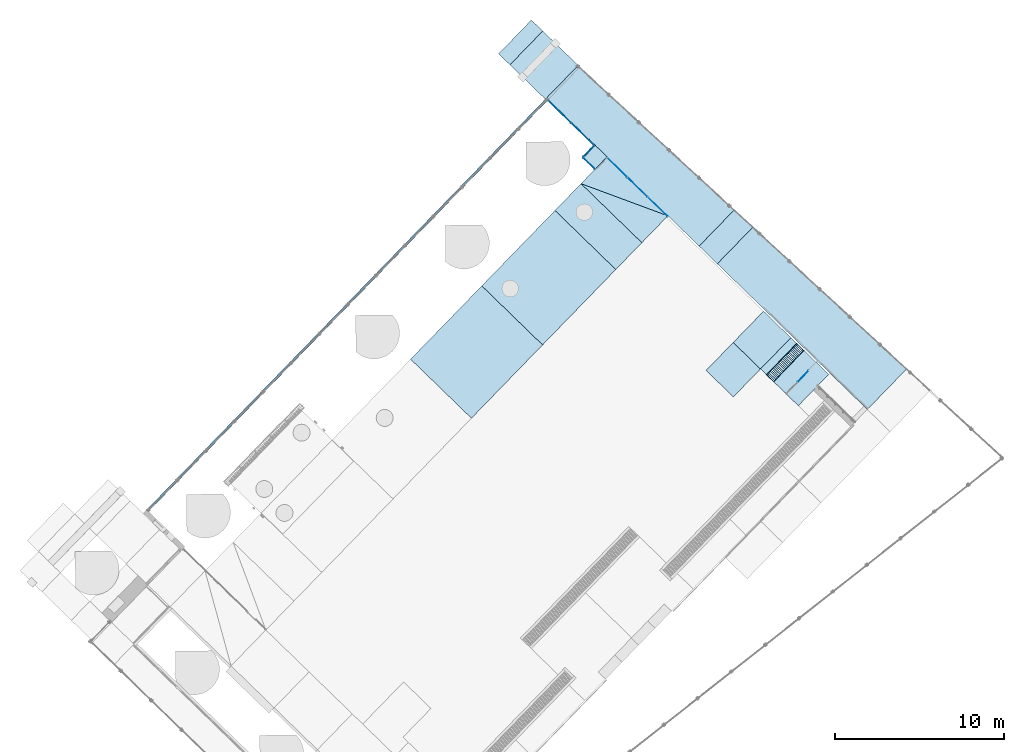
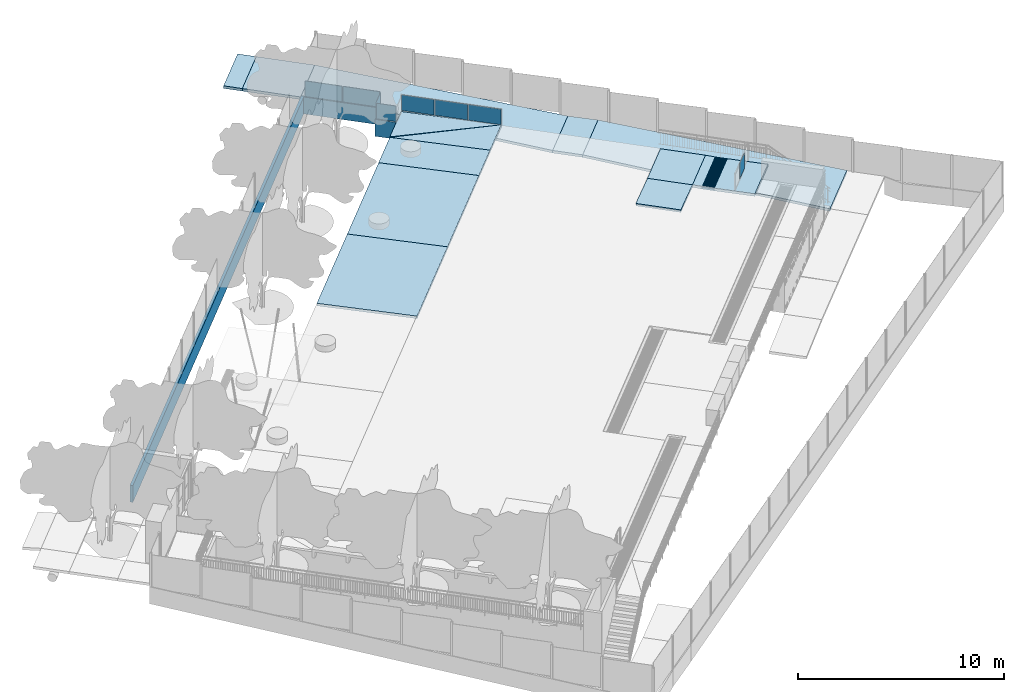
# One storey, part 18 of 37: 19 slabs, 8 plates, 5 elements without a shape of their own.
"""IFC2X3 building model written with IfcOpenShell, lengths in centimetres."""

from ifc_helpers import new_model, entity, si_unit, converted_unit, derived_unit, direction, frame, frame_2d, origin, origin_2d_with_axis, place, context, subcontext, project, spatial, polyline, rectangle, outline, extrude, source, transform, mapped, material, layer, layer_set, layer_usage, type_object, type_shapes, element, aggregate, save


model = new_model("IFC2X3")

# Units and contexts
model_context = context("Model", 3, precision=0.001, world=origin(), true_north=direction((0.717475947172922, 0.696583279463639)))
body_context = subcontext(model_context, "Body", "Model", "MODEL_VIEW")
ifc_project = project(units=[si_unit("LENGTHUNIT", "METRE", prefix="CENTI"), si_unit("AREAUNIT", "SQUARE_METRE"), si_unit("VOLUMEUNIT", "CUBIC_METRE"), converted_unit("PLANEANGLEUNIT", "DEGREE", entity("IfcRatioMeasure", 0.0174532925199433), si_unit("PLANEANGLEUNIT", "RADIAN"), dimensions=[0, 0, 0, 0, 0, 0, 0]), si_unit("MASSUNIT", "GRAM", prefix="KILO"), derived_unit("MASSDENSITYUNIT", [(si_unit("MASSUNIT", "GRAM", prefix="KILO"), 1), (si_unit("LENGTHUNIT", "METRE"), -3)]), si_unit("TIMEUNIT", "SECOND"), si_unit("FREQUENCYUNIT", "HERTZ"), si_unit("THERMODYNAMICTEMPERATUREUNIT", "DEGREE_CELSIUS"), derived_unit("THERMALTRANSMITTANCEUNIT", [(si_unit("MASSUNIT", "GRAM", prefix="KILO"), 1), (si_unit("THERMODYNAMICTEMPERATUREUNIT", "KELVIN"), -1), (si_unit("TIMEUNIT", "SECOND"), -3)]), derived_unit("VOLUMETRICFLOWRATEUNIT", [(si_unit("LENGTHUNIT", "METRE"), 3), (si_unit("TIMEUNIT", "SECOND"), -1)]), si_unit("ELECTRICCURRENTUNIT", "AMPERE"), si_unit("ELECTRICVOLTAGEUNIT", "VOLT"), si_unit("POWERUNIT", "WATT"), si_unit("FORCEUNIT", "NEWTON", prefix="KILO"), si_unit("ILLUMINANCEUNIT", "LUX"), si_unit("LUMINOUSFLUXUNIT", "LUMEN"), si_unit("LUMINOUSINTENSITYUNIT", "CANDELA"), derived_unit("USERDEFINED", [(si_unit("MASSUNIT", "GRAM", prefix="KILO"), -1), (si_unit("LENGTHUNIT", "METRE"), -2), (si_unit("TIMEUNIT", "SECOND"), 3), (si_unit("LUMINOUSFLUXUNIT", "LUMEN"), 1)]), derived_unit("LINEARVELOCITYUNIT", [(si_unit("LENGTHUNIT", "METRE"), 1), (si_unit("TIMEUNIT", "SECOND"), -1)]), si_unit("PRESSUREUNIT", "PASCAL"), derived_unit("USERDEFINED", [(si_unit("LENGTHUNIT", "METRE"), -2), (si_unit("MASSUNIT", "GRAM", prefix="KILO"), 1), (si_unit("TIMEUNIT", "SECOND"), -2)])], contexts=[model_context])

# Site, building, storey
site_placement = place(None, frame((0.0, 0.0, 0.0), z_axis=(0.0, 0.0, 1.0), x_axis=(0.696583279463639, 0.717475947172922, 0.0)))
site = spatial("IfcSite", under=ifc_project, at=site_placement, Name="Surface", CompositionType="ELEMENT")
building_placement = place(site_placement, origin())
building = spatial("IfcBuilding", under=site, at=building_placement, CompositionType="ELEMENT")
storey_placement = place(building_placement, origin())
storey = spatial("IfcBuildingStorey", under=building, at=storey_placement, Name="Nivel 0.00", CompositionType="ELEMENT", Elevation=0.0)

# Curtain wall, plate
curtain_wall_type_1 = type_object("IfcCurtainWallType", Name="Curtain Wall:REJA_BAJA_100mm", PredefinedType="NOTDEFINED")
curtain_wall_1_placement = place(storey_placement, origin())
curtain_wall_1 = element("IfcCurtainWall", 1, at=curtain_wall_1_placement, inside=storey, type_object=curtain_wall_type_1, Name="Curtain Wall:REJA_BAJA_100mm", ObjectType="Curtain Wall:REJA_BAJA_100mm")
ifc_material_1 = material(Name="REJA_MALLA_ACMA")
plate_type_1 = type_object("IfcPlateType", Name="MALLA ACMA", PredefinedType="CURTAIN_PANEL", material=ifc_material_1)
shared_shape_1 = source(origin(), body_context, "Body", "SweptSolid", [
    extrude(rectangle(XDim=1.0, YDim=90.4174702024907, at=origin_2d_with_axis()), frame((0.0, 0.0, 0.0), z_axis=(0.0, 0.0, 1.0), x_axis=(0.0, 1.0, 0.0)), (0.0, 0.0, 1.0), 94.0),
])
type_shapes(plate_type_1, [shared_shape_1])
plate_1_placement = place(curtain_wall_1_placement, frame((1675.42636923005, -1156.74407068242, 155.0), z_axis=(0.0, 0.0, 1.0), x_axis=(-1.0, 0.0, 0.0)))
plate_1 = element("IfcPlate", 2, at=plate_1_placement, type_object=plate_type_1, material=ifc_material_1, Name="System Panel:MALLA ACMA", ObjectType="MALLA ACMA", context=body_context, shape_type="MappedRepresentation", body=[
    mapped(shared_shape_1, transform((0.0, 0.0, 0.0), scale=1.0)),
])
aggregate(curtain_wall_1, [plate_1])

# Curtain wall, plates
curtain_wall_2_placement = place(storey_placement, origin())
curtain_wall_2 = element("IfcCurtainWall", 3, at=curtain_wall_2_placement, inside=storey, type_object=curtain_wall_type_1, Name="Curtain Wall:REJA_BAJA_100mm", ObjectType="Curtain Wall:REJA_BAJA_100mm")
plate_type_2 = type_object("IfcPlateType", Name="MALLA ACMA", PredefinedType="CURTAIN_PANEL", material=ifc_material_1)
shared_shape_2 = source(origin(), body_context, "Body", "SweptSolid", [
    extrude(rectangle(XDim=1.0, YDim=184.0, at=origin_2d_with_axis()), frame((0.0, 0.0, 0.0), z_axis=(0.0, 0.0, 1.0), x_axis=(0.0, 1.0, 0.0)), (0.0, 0.0, 1.0), 92.0),
])
type_shapes(plate_type_2, [shared_shape_2])
plate_2_placement = place(curtain_wall_2_placement, frame((1796.6277064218, 964.72563048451, 153.0), z_axis=(0.0, 0.0, 1.0), x_axis=(0.0, -1.0, 0.0)))
plate_2 = element("IfcPlate", 4, at=plate_2_placement, type_object=plate_type_2, material=ifc_material_1, Name="System Panel:MALLA ACMA", ObjectType="MALLA ACMA", context=body_context, shape_type="MappedRepresentation", body=[
    mapped(shared_shape_2, transform((0.0, 0.0, 0.0), scale=1.0)),
])
plate_3_placement = place(curtain_wall_2_placement, frame((1796.6277064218, 775.72563048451, 153.0), z_axis=(0.0, 0.0, 1.0), x_axis=(0.0, -1.0, 0.0)))
plate_3 = element("IfcPlate", 5, at=plate_3_placement, type_object=plate_type_2, material=ifc_material_1, Name="System Panel:MALLA ACMA", ObjectType="MALLA ACMA", context=body_context, shape_type="MappedRepresentation", body=[
    mapped(shared_shape_2, transform((0.0, 0.0, 0.0), scale=1.0)),
])
aggregate(curtain_wall_2, [plate_2, plate_3])

# Curtain wall, plate
curtain_wall_type_2 = type_object("IfcCurtainWallType", Name="Curtain Wall:REJA_BAJA_SIMPLE_100mm", PredefinedType="NOTDEFINED")
curtain_wall_3_placement = place(storey_placement, origin())
curtain_wall_3 = element("IfcCurtainWall", 6, at=curtain_wall_3_placement, inside=storey, type_object=curtain_wall_type_2, Name="Curtain Wall:REJA_BAJA_SIMPLE_100mm", ObjectType="Curtain Wall:REJA_BAJA_SIMPLE_100mm")
plate_type_3 = type_object("IfcPlateType", Name="MALLA ACMA", PredefinedType="CURTAIN_PANEL", material=ifc_material_1)
shared_shape_3 = source(origin(), body_context, "Body", "SweptSolid", [
    extrude(rectangle(XDim=1.0, YDim=88.5751315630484, at=origin_2d_with_axis()), frame((0.0, 0.0, 0.0), z_axis=(0.0, 0.0, 1.0), x_axis=(0.0, 1.0, 0.0)), (0.0, 0.0, 1.0), 92.0),
])
type_shapes(plate_type_3, [shared_shape_3])
plate_4_placement = place(curtain_wall_3_placement, frame((1747.34014064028, 678.72563048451, 153.0), z_axis=(0.0, 0.0, 1.0), x_axis=(-1.0, 0.0, 0.0)))
plate_4 = element("IfcPlate", 7, at=plate_4_placement, type_object=plate_type_3, material=ifc_material_1, Name="System Panel:MALLA ACMA", ObjectType="MALLA ACMA", context=body_context, shape_type="MappedRepresentation", body=[
    mapped(shared_shape_3, transform((0.0, 0.0, 0.0), scale=1.0)),
])
aggregate(curtain_wall_3, [plate_4])

curtain_wall_4_placement = place(storey_placement, origin())
curtain_wall_4 = element("IfcCurtainWall", 8, at=curtain_wall_4_placement, inside=storey, type_object=curtain_wall_type_2, Name="Curtain Wall:REJA_BAJA_SIMPLE_100mm", ObjectType="Curtain Wall:REJA_BAJA_SIMPLE_100mm")
plate_type_4 = type_object("IfcPlateType", Name="MALLA ACMA", PredefinedType="CURTAIN_PANEL", material=ifc_material_1)
shared_shape_4 = source(origin(), body_context, "Body", "SweptSolid", [
    extrude(rectangle(XDim=1.0, YDim=95.0763976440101, at=origin_2d_with_axis()), frame((0.0, 0.0, 0.0), z_axis=(0.0, 0.0, 1.0), x_axis=(0.0, 1.0, 0.0)), (0.0, 0.0, 1.0), 92.0),
])
type_shapes(plate_type_4, [shared_shape_4])
plate_5_placement = place(curtain_wall_4_placement, frame((1698.05257485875, 626.187431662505, 153.0), z_axis=(0.0, 0.0, 1.0), x_axis=(0.0, -1.0, 0.0)))
plate_5 = element("IfcPlate", 9, at=plate_5_placement, type_object=plate_type_4, material=ifc_material_1, Name="System Panel:MALLA ACMA", ObjectType="MALLA ACMA", context=body_context, shape_type="MappedRepresentation", body=[
    mapped(shared_shape_4, transform((0.0, 0.0, 0.0), scale=1.0)),
])
aggregate(curtain_wall_4, [plate_5])

# Curtain wall, plates
curtain_wall_5_placement = place(storey_placement, origin())
curtain_wall_5 = element("IfcCurtainWall", 10, at=curtain_wall_5_placement, inside=storey, type_object=curtain_wall_type_1, Name="Curtain Wall:REJA_BAJA_100mm", ObjectType="Curtain Wall:REJA_BAJA_100mm")
plate_type_5 = type_object("IfcPlateType", Name="MALLA ACMA", PredefinedType="CURTAIN_PANEL", material=ifc_material_1)
shared_shape_5 = source(origin(), body_context, "Body", "SweptSolid", [
    extrude(rectangle(XDim=1.0, YDim=162.33333335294, at=origin_2d_with_axis()), frame((0.0, 0.0, 0.0), z_axis=(0.0, 0.0, 1.0), x_axis=(0.0, 1.0, 0.0)), (0.0, 0.0, 1.0), 92.0),
])
type_shapes(plate_type_5, [shared_shape_5])
plate_6_placement = place(curtain_wall_5_placement, frame((1796.6277064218, 492.48256619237, 153.0), z_axis=(0.0, 0.0, 1.0), x_axis=(0.0, -1.0, 0.0)))
plate_6 = element("IfcPlate", 11, at=plate_6_placement, type_object=plate_type_5, material=ifc_material_1, Name="System Panel:MALLA ACMA", ObjectType="MALLA ACMA", context=body_context, shape_type="MappedRepresentation", body=[
    mapped(shared_shape_5, transform((0.0, 0.0, 0.0), scale=1.0)),
])
plate_7_placement = place(curtain_wall_5_placement, frame((1796.6277064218, 325.14923285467, 153.0), z_axis=(0.0, 0.0, 1.0), x_axis=(0.0, -1.0, 0.0)))
plate_7 = element("IfcPlate", 12, at=plate_7_placement, type_object=plate_type_5, material=ifc_material_1, Name="System Panel:MALLA ACMA", ObjectType="MALLA ACMA", context=body_context, shape_type="MappedRepresentation", body=[
    mapped(shared_shape_5, transform((0.0, 0.0, 0.0), scale=1.0)),
])
plate_8_placement = place(curtain_wall_5_placement, frame((1796.6277064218, 157.81589951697, 153.0), z_axis=(0.0, 0.0, 1.0), x_axis=(0.0, -1.0, 0.0)))
plate_8 = element("IfcPlate", 13, at=plate_8_placement, type_object=plate_type_5, material=ifc_material_1, Name="System Panel:MALLA ACMA", ObjectType="MALLA ACMA", context=body_context, shape_type="MappedRepresentation", body=[
    mapped(shared_shape_5, transform((0.0, 0.0, 0.0), scale=1.0)),
])
aggregate(curtain_wall_5, [plate_6, plate_7, plate_8])

# Slabs
ifc_material_2 = material(Name="<Unnamed>")
ifc_layer_1 = layer(ifc_material_2, 15.0)
ifc_layer_set_1 = layer_set([ifc_layer_1], Name="Pad:HORMIGON_EXTERIOR_150mm")
ifc_layer_usage_1 = layer_usage(ifc_layer_set_1, "AXIS3", "POSITIVE", 0.0)
slab_1_placement = place(storey_placement, frame((1800.55257456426, -1565.30786725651, -81.0571643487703)))
element("IfcSlab", 14, at=slab_1_placement, inside=storey, material=ifc_layer_usage_1, Name="Pad:HORMIGON_EXTERIOR_150mm", ObjectType="Pad:HORMIGON_EXTERIOR_150mm", PredefinedType="FLOOR", context=body_context, shape_type="SweptSolid", body=[
    extrude(outline(polyline([(-160.83910368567, 0.0), (-160.839103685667, -1240.70947623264), (143.969226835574, -1240.70947623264), (175.844090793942, 0.0), (-160.83910368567, 0.0)])), frame((160.83910368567, 0.0, 15.0571538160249), z_axis=(0.0, 0.0870469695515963, -0.996204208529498), x_axis=(1.0, 0.0, 0.0)), (0.0, 0.0870469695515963, 0.996204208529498), 15.0571538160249),
])
ifc_layer_usage_2 = layer_usage(ifc_layer_set_1, "AXIS3", "POSITIVE", 0.0)
slab_2_placement = place(storey_placement, origin())
element("IfcSlab", 15, at=slab_2_placement, inside=storey, material=ifc_layer_usage_2, Name="Pad:HORMIGON_EXTERIOR_150mm", ObjectType="Pad:HORMIGON_EXTERIOR_150mm", PredefinedType="FLOOR", context=body_context, shape_type="SweptSolid", body=[
    extrude(outline(polyline([(-149.502933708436, -75.0), (151.437088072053, -75.0), (151.437088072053, 75.0), (-153.37124243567, 75.0), (-149.502933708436, -75.0)])), frame((1951.98966264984, -254.307865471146, 26.9999894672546), z_axis=(0.0, 0.0, 1.0), x_axis=(-1.0, 0.0, 0.0)), (0.0, 0.0, 1.0), 15.0),
])
ifc_layer_usage_3 = layer_usage(ifc_layer_set_1, "AXIS3", "POSITIVE", 0.0)
slab_3_placement = place(storey_placement, frame((1800.55257456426, -179.307865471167, 26.944697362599)))
element("IfcSlab", 16, at=slab_3_placement, inside=storey, material=ifc_layer_usage_3, Name="Pad:HORMIGON_EXTERIOR_150mm", ObjectType="Pad:HORMIGON_EXTERIOR_150mm", PredefinedType="FLOOR", context=body_context, shape_type="SweptSolid", body=[
    extrude(outline(polyline([(-142.967517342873, 0.0), (-142.967517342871, -1261.32029748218), (125.564752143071, -1261.29585785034), (157.972504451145, 0.0), (-142.967517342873, 0.0)])), frame((142.967517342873, 0.0, 15.0552921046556), z_axis=(0.0, 0.0856254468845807, -0.996327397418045), x_axis=(1.0, 0.0, 0.0)), (0.0, 0.0856254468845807, 0.996327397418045), 15.0552921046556),
])
ifc_layer_usage_4 = layer_usage(ifc_layer_set_1, "AXIS3", "POSITIVE", 0.0)
slab_4_placement = place(storey_placement, origin())
element("IfcSlab", 17, at=slab_4_placement, inside=storey, material=ifc_layer_usage_4, Name="Pad:HORMIGON_EXTERIOR_150mm", ObjectType="Pad:HORMIGON_EXTERIOR_150mm", PredefinedType="FLOOR", context=body_context, shape_type="SweptSolid", body=[
    extrude(rectangle(XDim=278.74547042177, YDim=291.823100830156, at=frame_2d((1.13686837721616e-13, 0.0), x_axis=(1.0, 0.0))), frame((1929.92529503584, 1223.26728503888, 134.999989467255), z_axis=(0.0, 0.0, 1.0), x_axis=(-1.0, 0.0, 0.0)), (0.0, 0.0, 1.0), 15.0),
])
ifc_layer_usage_5 = layer_usage(ifc_layer_set_1, "AXIS3", "POSITIVE", 0.0)
slab_5_placement = place(storey_placement, origin())
element("IfcSlab", 18, at=slab_5_placement, inside=storey, material=ifc_layer_usage_5, Name="Pad:HORMIGON_EXTERIOR_150mm", ObjectType="Pad:HORMIGON_EXTERIOR_150mm", PredefinedType="FLOOR", context=body_context, shape_type="SweptSolid", body=[
    extrude(outline(polyline([(-46.573417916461, -139.264225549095), (46.7197653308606, -139.264225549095), (46.7197653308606, 139.264225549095), (-46.8661127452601, 139.264225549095), (-46.573417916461, -139.264225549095)])), frame((1929.81678537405, 1415.89860078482, 134.999989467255), z_axis=(0.0, 0.0, 1.0), x_axis=(0.0, -1.0, 0.0)), (0.0, 0.0, 1.0), 15.0),
])
ifc_layer_usage_6 = layer_usage(ifc_layer_set_1, "AXIS3", "POSITIVE", 0.0)
slab_6_placement = place(storey_placement, frame((737.488658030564, 77.5654874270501, 124.997002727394)))
element("IfcSlab", 19, at=slab_6_placement, inside=storey, material=ifc_layer_usage_6, Name="Pad:HORMIGON_EXTERIOR_150mm", ObjectType="Pad:HORMIGON_EXTERIOR_150mm", PredefinedType="FLOOR", context=body_context, shape_type="SweptSolid", body=[
    extrude(rectangle(XDim=501.183519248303, YDim=620.990016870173, at=frame_2d((0.0, -250.591759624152), x_axis=(0.0, 1.0))), frame((310.495008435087, 0.0, 25.0029867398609), z_axis=(0.0, -0.0199527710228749, -0.999800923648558), x_axis=(1.0, 0.0, 0.0)), (0.0, -0.0199527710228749, 0.999800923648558), 15.0029867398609),
])
ifc_layer_usage_7 = layer_usage(ifc_layer_set_1, "AXIS3", "POSITIVE", 0.0)
slab_7_placement = place(storey_placement, frame((133.458548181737, 77.565487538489, 124.997002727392)))
element("IfcSlab", 20, at=slab_7_placement, inside=storey, material=ifc_layer_usage_7, Name="Pad:HORMIGON_EXTERIOR_150mm", ObjectType="Pad:HORMIGON_EXTERIOR_150mm", PredefinedType="FLOOR", context=body_context, shape_type="SweptSolid", body=[
    extrude(rectangle(XDim=501.183519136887, YDim=604.030109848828, at=frame_2d((0.0, -250.591759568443), x_axis=(0.0, 1.0))), frame((302.015054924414, 0.0, 25.0029867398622), z_axis=(0.0, -0.0199527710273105, -0.999800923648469), x_axis=(1.0, 0.0, 0.0)), (0.0, -0.0199527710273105, 0.999800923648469), 15.0029867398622),
])
ifc_layer_usage_8 = layer_usage(ifc_layer_set_1, "AXIS3", "POSITIVE", 0.0)
slab_8_placement = place(storey_placement, frame((1358.53788782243, 77.5654875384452, 124.997002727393)))
element("IfcSlab", 21, at=slab_8_placement, inside=storey, material=ifc_layer_usage_8, Name="Pad:HORMIGON_EXTERIOR_150mm", ObjectType="Pad:HORMIGON_EXTERIOR_150mm", PredefinedType="FLOOR", context=body_context, shape_type="SweptSolid", body=[
    extrude(rectangle(XDim=501.183519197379, YDim=220.977736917, at=frame_2d((0.0, -250.591759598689), x_axis=(0.0, 1.0))), frame((110.4888684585, 0.0, 25.0029867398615), z_axis=(0.0, -0.0199527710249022, -0.999800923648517), x_axis=(1.0, 0.0, 0.0)), (0.0, -0.0199527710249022, 0.999800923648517), 15.0029867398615),
])
ifc_layer_usage_9 = layer_usage(ifc_layer_set_1, "AXIS3", "POSITIVE", 0.0)
slab_9_placement = place(storey_placement, frame((1579.51562473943, 77.5654875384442, 124.997002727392)))
element("IfcSlab", 22, at=slab_9_placement, inside=storey, material=ifc_layer_usage_9, Name="Pad:HORMIGON_EXTERIOR_150mm", ObjectType="Pad:HORMIGON_EXTERIOR_150mm", PredefinedType="FLOOR", context=body_context, shape_type="SweptSolid", body=[
    extrude(outline(polyline([(0.0, -501.183519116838), (221.036949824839, 0.0), (0.0, 0.0), (0.0, -501.183519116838)])), frame((0.0, 0.0, 25.0029867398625), z_axis=(0.0, -0.0199527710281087, -0.999800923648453), x_axis=(1.0, 0.0, 0.0)), (0.0, -0.0199527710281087, 0.999800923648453), 15.0029867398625),
])
ifc_layer_usage_10 = layer_usage(ifc_layer_set_1, "AXIS3", "POSITIVE", 0.0)
slab_10_placement = place(storey_placement, frame((1579.51562473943, 77.565487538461, 127.998525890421)))
element("IfcSlab", 23, at=slab_10_placement, inside=storey, material=ifc_layer_usage_10, Name="Pad:HORMIGON_EXTERIOR_150mm", ObjectType="Pad:HORMIGON_EXTERIOR_150mm", PredefinedType="FLOOR", context=body_context, shape_type="SweptSolid", body=[
    extrude(outline(polyline([(-221.036949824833, 0.0), (0.0, -501.132636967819), (0.0, 0.0), (-221.036949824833, 0.0)])), frame((221.036949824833, 501.083745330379, 15.0014635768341), z_axis=(0.0, 0.0139683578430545, 0.999902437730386), x_axis=(1.0, 0.0, 0.0)), (0.0, 0.0139683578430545, -0.999902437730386), 15.0014635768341),
])
ifc_layer_usage_11 = layer_usage(ifc_layer_set_1, "AXIS3", "POSITIVE", 0.0)
slab_11_placement = place(storey_placement, frame((1532.55016389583, -1257.30786724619, 134.999261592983)))
element("IfcSlab", 24, at=slab_11_placement, inside=storey, material=ifc_layer_usage_11, Name="Pad:HORMIGON_EXTERIOR_150mm", ObjectType="Pad:HORMIGON_EXTERIOR_150mm", PredefinedType="FLOOR", context=body_context, shape_type="SweptSolid", body=[
    extrude(rectangle(XDim=203.024405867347, YDim=258.002410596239, at=frame_2d((0.0, -101.512202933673), x_axis=(0.0, -1.0))), frame((129.00120529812, 0.0, 17.0007278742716), z_axis=(0.0, -0.00985103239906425, -0.999951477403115), x_axis=(1.0, 0.0, 0.0)), (0.0, -0.00985103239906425, 0.999951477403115), 15.0007278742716),
])
ifc_layer_usage_12 = layer_usage(ifc_layer_set_1, "AXIS3", "POSITIVE", 0.0)
slab_12_placement = place(storey_placement, frame((1532.55016389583, -994.293312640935, 134.987409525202)))
element("IfcSlab", 25, at=slab_12_placement, inside=storey, material=ifc_layer_usage_12, Name="Pad:HORMIGON_EXTERIOR_150mm", ObjectType="Pad:HORMIGON_EXTERIOR_150mm", PredefinedType="FLOOR", context=body_context, shape_type="SweptSolid", body=[
    extrude(rectangle(XDim=258.002410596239, YDim=48.8645994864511, at=frame_2d((0.398580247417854, -24.4322997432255), x_axis=(1.0, 0.0))), frame((128.602625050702, 0.0, 15.0125799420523), z_axis=(0.0, 0.0409294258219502, -0.99916203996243), x_axis=(1.0, 0.0, 0.0)), (0.0, 0.0409294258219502, 0.99916203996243), 15.0125799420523),
])
ifc_layer_usage_13 = layer_usage(ifc_layer_set_1, "AXIS3", "POSITIVE", 0.0)
slab_13_placement = place(storey_placement, origin())
element("IfcSlab", 26, at=slab_13_placement, inside=storey, material=ifc_layer_usage_13, Name="Pad:HORMIGON_EXTERIOR_150mm", ObjectType="Pad:HORMIGON_EXTERIOR_150mm", PredefinedType="FLOOR", context=body_context, shape_type="SweptSolid", body=[
    extrude(rectangle(XDim=225.003176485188, YDim=258.002410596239, at=origin_2d_with_axis()), frame((1661.55136919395, -832.968071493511, 136.999989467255), z_axis=(0.0, 0.0, 1.0), x_axis=(0.0, -1.0, 0.0)), (0.0, 0.0, 1.0), 15.0),
])
ifc_layer_usage_14 = layer_usage(ifc_layer_set_1, "AXIS3", "POSITIVE", 0.0)
slab_14_placement = place(storey_placement, frame((1302.22726380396, -945.469659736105, 136.990943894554)))
element("IfcSlab", 27, at=slab_14_placement, inside=storey, material=ifc_layer_usage_14, Name="Pad:HORMIGON_EXTERIOR_150mm", ObjectType="Pad:HORMIGON_EXTERIOR_150mm", PredefinedType="FLOOR", context=body_context, shape_type="SweptSolid", body=[
    extrude(rectangle(XDim=230.461793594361, YDim=225.003176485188, at=frame_2d((-115.23089679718, 0.0), x_axis=(1.0, 0.0))), frame((230.322900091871, 112.501588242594, 15.0090455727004), z_axis=(-0.0347129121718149, 0.0, -0.999397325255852), x_axis=(0.999397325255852, 0.0, -0.0347129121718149)), (0.0347129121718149, 0.0, 0.999397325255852), 15.0090455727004),
])
ifc_layer_2 = layer(ifc_material_2, 10.0)
ifc_layer_set_2 = layer_set([ifc_layer_2], Name="Pad:HORMIGON_EXTERIOR_100mm")
ifc_layer_usage_15 = layer_usage(ifc_layer_set_2, "AXIS3", "POSITIVE", 0.0)
slab_15_placement = place(storey_placement, origin())
element("IfcSlab", 28, at=slab_15_placement, inside=storey, material=ifc_layer_usage_15, Name="Pad:HORMIGON_EXTERIOR_100mm", ObjectType="Pad:HORMIGON_EXTERIOR_100mm", PredefinedType="FLOOR", context=body_context, shape_type="SweptSolid", body=[
    extrude(outline(polyline([(-30.0, -129.00120529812), (30.0, -129.00120529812), (30.0, 129.00120529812), (-30.0, 129.00120529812), (-30.0, -129.00120529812)]), holes=[polyline([(27.0, 126.00120529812), (27.0, -126.00120529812), (-27.0, -126.00120529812), (-27.0, 126.00120529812), (27.0, 126.00120529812)])]), frame((1661.55136919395, -1024.29331264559, 135.0), z_axis=(0.0, 0.0, 1.0), x_axis=(0.0, 1.0, 0.0)), (0.0, 0.0, 1.0), 10.0),
])
ifc_material_3 = material(Name="Stainless Steel")
slab_16_placement = place(storey_placement, origin())
element("IfcSlab", 29, at=slab_16_placement, inside=storey, material=ifc_material_3, Name="REGUERA_METÁLICA1:REGUERA_METÁLICA-01", ObjectType="REGUERA_METÁLICA1:REGUERA_METÁLICA-01", PredefinedType="FLOOR", context=body_context, shape_type="SweptSolid", body=[
    extrude(outline(polyline([(-29.9950213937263, -129.000906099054), (29.9950213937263, -129.000906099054), (29.9950213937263, 129.000906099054), (-29.9950213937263, 129.000906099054), (-29.9950213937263, -129.000906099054)]), holes=[polyline([(-26.9925406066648, -126.000936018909), (-26.9925406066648, -121.649098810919), (27.0027963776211, -121.649098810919), (27.0027963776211, -126.000936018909), (-26.9925406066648, -126.000936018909)]), polyline([(-26.9925406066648, -116.886598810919), (-26.9925406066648, -112.124098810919), (27.0035162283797, -112.124098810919), (27.0035162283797, -116.886598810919), (-26.9925406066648, -116.886598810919)]), polyline([(-26.9925406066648, -107.361598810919), (-26.9925406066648, -102.599098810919), (27.0035162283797, -102.599098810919), (27.0035162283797, -107.361598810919), (-26.9925406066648, -107.361598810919)]), polyline([(-26.9925406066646, -97.8365988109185), (-26.9925406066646, -93.0740988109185), (27.0035162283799, -93.0740988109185), (27.0035162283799, -97.8365988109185), (-26.9925406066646, -97.8365988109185)]), polyline([(-26.9925406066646, -88.3115988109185), (-26.9925406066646, -83.5490988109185), (27.0035162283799, -83.5490988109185), (27.0035162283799, -88.3115988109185), (-26.9925406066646, -88.3115988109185)]), polyline([(-26.9925406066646, -78.7865988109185), (-26.9925406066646, -74.0240988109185), (27.0035162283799, -74.0240988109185), (27.0035162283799, -78.7865988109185), (-26.9925406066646, -78.7865988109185)]), polyline([(-26.9925406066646, -69.2615988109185), (-26.9925406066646, -64.4990988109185), (27.0035162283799, -64.4990988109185), (27.0035162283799, -69.2615988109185), (-26.9925406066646, -69.2615988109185)]), polyline([(-26.9925406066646, -59.7365988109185), (-26.9925406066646, -54.9740988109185), (27.0035162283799, -54.9740988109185), (27.0035162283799, -59.7365988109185), (-26.9925406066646, -59.7365988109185)]), polyline([(-26.9925406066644, -50.2115988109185), (-26.9925406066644, -45.4490988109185), (27.0035162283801, -45.4490988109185), (27.0035162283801, -50.2115988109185), (-26.9925406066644, -50.2115988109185)]), polyline([(-26.9925406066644, -40.6865988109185), (-26.9925406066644, -35.9240988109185), (27.0035162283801, -35.9240988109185), (27.0035162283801, -40.6865988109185), (-26.9925406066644, -40.6865988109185)]), polyline([(-26.9925406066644, -31.1615988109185), (-26.9925406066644, -26.3990988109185), (27.0035162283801, -26.3990988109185), (27.0035162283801, -31.1615988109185), (-26.9925406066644, -31.1615988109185)]), polyline([(-26.9925406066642, -21.6365988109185), (-26.9925406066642, -16.8740988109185), (27.0035162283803, -16.8740988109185), (27.0035162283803, -21.6365988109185), (-26.9925406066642, -21.6365988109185)]), polyline([(-26.9925406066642, -12.1115988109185), (-26.9925406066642, -7.34909881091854), (27.0035162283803, -7.34909881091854), (27.0035162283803, -12.1115988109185), (-26.9925406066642, -12.1115988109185)]), polyline([(-26.9925406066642, -2.58659881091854), (-26.9925406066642, 2.17590118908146), (27.0035162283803, 2.17590118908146), (27.0035162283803, -2.58659881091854), (-26.9925406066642, -2.58659881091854)]), polyline([(-26.9925406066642, 6.93840118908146), (-26.9925406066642, 11.7009011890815), (27.0035162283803, 11.7009011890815), (27.0035162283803, 6.93840118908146), (-26.9925406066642, 6.93840118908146)]), polyline([(-26.9925406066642, 16.4634011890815), (-26.9925406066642, 21.2259011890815), (27.0035162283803, 21.2259011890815), (27.0035162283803, 16.4634011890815), (-26.9925406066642, 16.4634011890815)]), polyline([(-26.992540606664, 25.9884011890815), (-26.992540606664, 30.7509011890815), (27.0035162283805, 30.7509011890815), (27.0035162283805, 25.9884011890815), (-26.992540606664, 25.9884011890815)]), polyline([(-26.992540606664, 35.5134011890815), (-26.992540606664, 40.2759011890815), (27.0035162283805, 40.2759011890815), (27.0035162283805, 35.5134011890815), (-26.992540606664, 35.5134011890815)]), polyline([(-26.992540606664, 45.0384011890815), (-26.992540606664, 49.8009011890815), (27.0035162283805, 49.8009011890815), (27.0035162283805, 45.0384011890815), (-26.992540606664, 45.0384011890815)]), polyline([(-26.9925406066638, 54.5634011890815), (-26.9925406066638, 59.3259011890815), (27.0035162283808, 59.3259011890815), (27.0035162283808, 54.5634011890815), (-26.9925406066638, 54.5634011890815)]), polyline([(-26.9925406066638, 64.0884011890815), (-26.9925406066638, 68.8509011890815), (27.0035162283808, 68.8509011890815), (27.0035162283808, 64.0884011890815), (-26.9925406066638, 64.0884011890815)]), polyline([(-26.9925406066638, 73.6134011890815), (-26.9925406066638, 78.3759011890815), (27.0035162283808, 78.3759011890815), (27.0035162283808, 73.6134011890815), (-26.9925406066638, 73.6134011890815)]), polyline([(-26.9925406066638, 83.1384011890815), (-26.9925406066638, 87.9009011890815), (27.0035162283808, 87.9009011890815), (27.0035162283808, 83.1384011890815), (-26.9925406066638, 83.1384011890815)]), polyline([(-26.9925406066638, 92.6634011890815), (-26.9925406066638, 97.4259011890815), (27.0035162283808, 97.4259011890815), (27.0035162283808, 92.6634011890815), (-26.9925406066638, 92.6634011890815)]), polyline([(-26.9925406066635, 102.188401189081), (-26.9925406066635, 106.950901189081), (27.003516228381, 106.950901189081), (27.003516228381, 102.188401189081), (-26.9925406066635, 102.188401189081)]), polyline([(-26.9925406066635, 111.713401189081), (-26.9925406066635, 116.475901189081), (27.003516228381, 116.475901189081), (27.003516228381, 111.713401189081), (-26.9925406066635, 111.713401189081)]), polyline([(-26.9925406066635, 121.238401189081), (-26.9925406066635, 126.000901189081), (27.003516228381, 126.000901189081), (27.003516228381, 121.238401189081), (-26.9925406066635, 121.238401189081)])]), frame((1661.5516571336, -1023.87794941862, 145.0), z_axis=(0.0, 0.0, 1.0), x_axis=(0.0, -1.0, 0.0)), (0.0, 0.0, 1.0), 5.0),
])
ifc_material_4 = material(Name="Concrete, Cast-in-Place gray")
ifc_layer_3 = layer(ifc_material_4, 100.0)
ifc_layer_set_3 = layer_set([ifc_layer_3], Name="Pad:HORMIGON_M.CONTEN_1000mm")
ifc_layer_usage_16 = layer_usage(ifc_layer_set_3, "AXIS3", "POSITIVE", 0.0)
slab_17_placement = place(storey_placement, origin())
element("IfcSlab", 30, at=slab_17_placement, inside=storey, material=ifc_layer_usage_16, Name="Pad:HORMIGON_M.CONTEN_1000mm", ObjectType="Pad:HORMIGON_M.CONTEN_1000mm", PredefinedType="FLOOR", context=body_context, shape_type="SweptSolid", body=[
    extrude(rectangle(XDim=3391.11099853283, YDim=15.0818745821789, at=frame_2d((0.0, -1.08357767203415e-13), x_axis=(1.0, 0.0))), frame((105.072207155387, 1070.38223033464, 50.0), z_axis=(0.0, 0.0, 1.0), x_axis=(-1.0, 0.0, 0.0)), (0.0, 0.0, 1.0), 100.0),
])
ifc_layer_usage_17 = layer_usage(ifc_layer_set_1, "AXIS3", "POSITIVE", 0.0)
slab_18_placement = place(storey_placement, origin())
element("IfcSlab", 31, at=slab_18_placement, inside=storey, material=ifc_layer_usage_17, Name="Pad:HORMIGON_EXTERIOR_150mm", ObjectType="Pad:HORMIGON_EXTERIOR_150mm", PredefinedType="FLOOR", context=body_context, shape_type="SweptSolid", body=[
    extrude(rectangle(XDim=97.5763976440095, YDim=99.9999997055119, at=origin_2d_with_axis()), frame((1750.55257471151, 627.437431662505, 109.0), z_axis=(0.0, 0.0, 1.0), x_axis=(0.0, 1.0, 0.0)), (0.0, 0.0, 1.0), 15.0),
])
ifc_layer_usage_18 = layer_usage(ifc_layer_set_3, "AXIS3", "POSITIVE", 0.0)
slab_19_placement = place(storey_placement, origin())
element("IfcSlab", 32, at=slab_19_placement, inside=storey, material=ifc_layer_usage_18, Name="Pad:HORMIGON_M.CONTEN_1000mm", ObjectType="Pad:HORMIGON_M.CONTEN_1000mm", PredefinedType="FLOOR", context=body_context, shape_type="SweptSolid", body=[
    extrude(outline(polyline([(-47.1437828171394, -73.5098162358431), (52.8562168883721, -73.5098162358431), (52.8562168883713, 313.1058463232), (46.4313487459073, 313.1058463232), (46.4313487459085, -68.5098162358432), (-52.1437828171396, -68.5098162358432), (-52.1437828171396, -171.086213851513), (-47.1437828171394, -171.086213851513), (-47.1437828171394, -73.5098162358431)])), frame((1747.69635767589, 749.735446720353, 50.0)), (0.0, 0.0, 1.0), 100.0),
])

save(model, "model.ifc")
